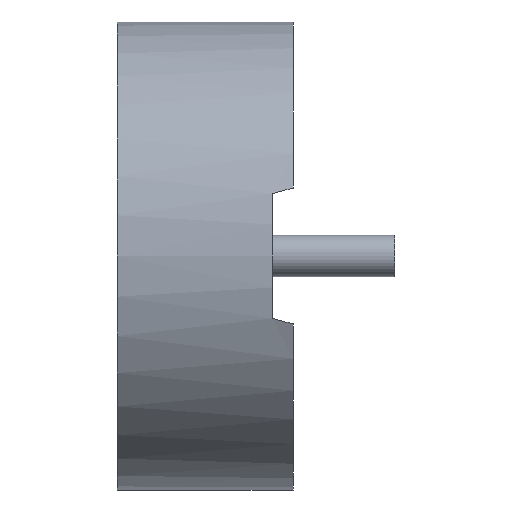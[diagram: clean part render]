
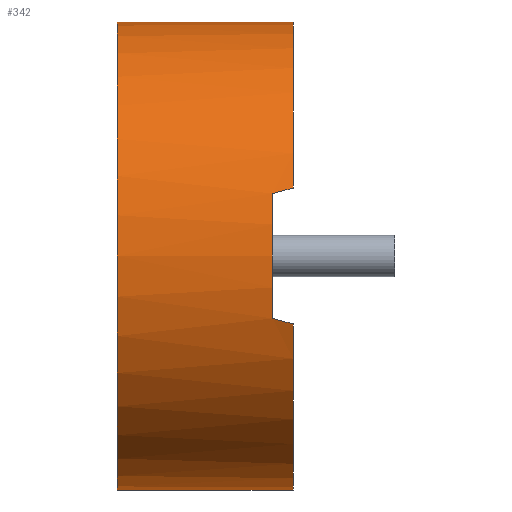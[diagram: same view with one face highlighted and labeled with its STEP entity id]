
A CAD part, left-side view. The second image highlights one B-rep face of the part: STEP entity #342.
In plain terms, the highlighted cylindrical face has radius 14.287 mm (diameter 28.575 mm), a partial arc.
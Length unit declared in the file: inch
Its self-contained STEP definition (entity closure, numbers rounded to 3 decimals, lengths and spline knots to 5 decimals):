
#6 = CARTESIAN_POINT ( 'NONE',  ( -0.53824, 0., 0.1634 ) ) ;
#36 = EDGE_CURVE ( 'NONE', #85, #126, #417, .T. ) ;
#43 = LINE ( 'NONE', #775, #900 ) ;
#44 = FACE_OUTER_BOUND ( 'NONE', #283, .T. ) ;
#84 =( BOUNDED_CURVE ( )  B_SPLINE_CURVE ( 3, ( #1111, #701, #686, #6 ),
 .UNSPECIFIED., .F., .T. ) 
 B_SPLINE_CURVE_WITH_KNOTS ( ( 4, 4 ),
 ( 4.98232, 5.00713 ),
 .UNSPECIFIED. ) 
 CURVE ( )  GEOMETRIC_REPRESENTATION_ITEM ( )  RATIONAL_B_SPLINE_CURVE ( ( 1., 1., 1., 1. ) ) 
 REPRESENTATION_ITEM ( '' )  );
#85 = VERTEX_POINT ( 'NONE', #703 ) ;
#86 = ORIENTED_EDGE ( 'NONE', *, *, #266, .T. ) ;
#124 = CARTESIAN_POINT ( 'NONE',  ( -0.54213, 0.05, -0.15 ) ) ;
#126 = VERTEX_POINT ( 'NONE', #878 ) ;
#132 = ORIENTED_EDGE ( 'NONE', *, *, #778, .T. ) ;
#143 = ORIENTED_EDGE ( 'NONE', *, *, #371, .F. ) ;
#154 = VERTEX_POINT ( 'NONE', #1243 ) ;
#159 = AXIS2_PLACEMENT_3D ( 'NONE', #237, #236, #235 ) ;
#161 = CARTESIAN_POINT ( 'NONE',  ( -0.54213, 0.05, -0.15 ) ) ;
#181 = CIRCLE ( 'NONE', #789, 0.5625 ) ;
#226 = CYLINDRICAL_SURFACE ( 'NONE', #487, 0.5625 ) ;
#235 = DIRECTION ( 'NONE',  ( 0., 0., 1. ) ) ;
#236 = DIRECTION ( 'NONE',  ( 0., 1., 0. ) ) ;
#237 = CARTESIAN_POINT ( 'NONE',  ( 0., 0., 0. ) ) ;
#243 = CIRCLE ( 'NONE', #159, 0.5625 ) ;
#251 = CARTESIAN_POINT ( 'NONE',  ( -0.54213, 0.05, 0.15 ) ) ;
#266 = EDGE_CURVE ( 'NONE', #85, #279, #1164, .T. ) ;
#271 = CARTESIAN_POINT ( 'NONE',  ( 0., 0., 0.5625 ) ) ;
#279 = VERTEX_POINT ( 'NONE', #438 ) ;
#283 = EDGE_LOOP ( 'NONE', ( #143, #306, #86, #991, #976, #132, #902, #980 ) ) ;
#290 = CARTESIAN_POINT ( 'NONE',  ( -0.54089, 0.03327, -0.15448 ) ) ;
#306 = ORIENTED_EDGE ( 'NONE', *, *, #36, .F. ) ;
#329 = CARTESIAN_POINT ( 'NONE',  ( 0., 0.05, 0. ) ) ;
#342 = ADVANCED_FACE ( 'NONE', ( #44 ), #226, .T. ) ;
#371 = EDGE_CURVE ( 'NONE', #126, #1102, #43, .T. ) ;
#407 = DIRECTION ( 'NONE',  ( 0., 1., 0. ) ) ;
#417 = CIRCLE ( 'NONE', #1151, 0.5625 ) ;
#438 = CARTESIAN_POINT ( 'NONE',  ( 0., 0., -0.5625 ) ) ;
#485 = DIRECTION ( 'NONE',  ( 0., -1., 0. ) ) ;
#487 = AXIS2_PLACEMENT_3D ( 'NONE', #1035, #680, #767 ) ;
#491 = CARTESIAN_POINT ( 'NONE',  ( 0., 0.423, -0.5625 ) ) ;
#504 = VERTEX_POINT ( 'NONE', #722 ) ;
#517 = CARTESIAN_POINT ( 'NONE',  ( 0., 0.423, 0. ) ) ;
#525 = DIRECTION ( 'NONE',  ( 0., 1., 0. ) ) ;
#538 = CARTESIAN_POINT ( 'NONE',  ( 0., 0., 0. ) ) ;
#670 = DIRECTION ( 'NONE',  ( 0., -1., 0. ) ) ;
#680 = DIRECTION ( 'NONE',  ( 0., -1., 0. ) ) ;
#686 = CARTESIAN_POINT ( 'NONE',  ( -0.5396, 0.01661, 0.15895 ) ) ;
#701 = CARTESIAN_POINT ( 'NONE',  ( -0.54089, 0.03327, 0.15448 ) ) ;
#703 = CARTESIAN_POINT ( 'NONE',  ( 0., 0.423, -0.5625 ) ) ;
#722 = CARTESIAN_POINT ( 'NONE',  ( -0.53824, 0., -0.1634 ) ) ;
#740 = VECTOR ( 'NONE', #485, 39.37008 ) ;
#767 = DIRECTION ( 'NONE',  ( 0., 0., -1. ) ) ;
#775 = CARTESIAN_POINT ( 'NONE',  ( 0., 0.423, 0.5625 ) ) ;
#778 = EDGE_CURVE ( 'NONE', #946, #1249, #181, .T. ) ;
#789 = AXIS2_PLACEMENT_3D ( 'NONE', #329, #407, #939 ) ;
#834 = EDGE_CURVE ( 'NONE', #1249, #154, #84, .T. ) ;
#851 = DIRECTION ( 'NONE',  ( 0., 0., 1. ) ) ;
#878 = CARTESIAN_POINT ( 'NONE',  ( 0., 0.423, 0.5625 ) ) ;
#900 = VECTOR ( 'NONE', #670, 39.37008 ) ;
#902 = ORIENTED_EDGE ( 'NONE', *, *, #834, .T. ) ;
#939 = DIRECTION ( 'NONE',  ( 0., 0., 1. ) ) ;
#946 = VERTEX_POINT ( 'NONE', #161 ) ;
#955 = EDGE_CURVE ( 'NONE', #279, #504, #1159, .T. ) ;
#976 = ORIENTED_EDGE ( 'NONE', *, *, #994, .T. ) ;
#980 = ORIENTED_EDGE ( 'NONE', *, *, #1192, .T. ) ;
#991 = ORIENTED_EDGE ( 'NONE', *, *, #955, .T. ) ;
#994 = EDGE_CURVE ( 'NONE', #504, #946, #1282, .T. ) ;
#1024 = AXIS2_PLACEMENT_3D ( 'NONE', #538, #1054, #1057 ) ;
#1035 = CARTESIAN_POINT ( 'NONE',  ( 0., 0.423, 0. ) ) ;
#1054 = DIRECTION ( 'NONE',  ( 0., 1., 0. ) ) ;
#1057 = DIRECTION ( 'NONE',  ( 0., 0., 1. ) ) ;
#1058 = CARTESIAN_POINT ( 'NONE',  ( -0.53824, 0., -0.1634 ) ) ;
#1064 = CARTESIAN_POINT ( 'NONE',  ( -0.5396, 0.01661, -0.15895 ) ) ;
#1102 = VERTEX_POINT ( 'NONE', #271 ) ;
#1111 = CARTESIAN_POINT ( 'NONE',  ( -0.54213, 0.05, 0.15 ) ) ;
#1151 = AXIS2_PLACEMENT_3D ( 'NONE', #517, #525, #851 ) ;
#1159 = CIRCLE ( 'NONE', #1024, 0.5625 ) ;
#1164 = LINE ( 'NONE', #491, #740 ) ;
#1192 = EDGE_CURVE ( 'NONE', #154, #1102, #243, .T. ) ;
#1243 = CARTESIAN_POINT ( 'NONE',  ( -0.53824, 0., 0.1634 ) ) ;
#1249 = VERTEX_POINT ( 'NONE', #251 ) ;
#1282 =( BOUNDED_CURVE ( )  B_SPLINE_CURVE ( 3, ( #1058, #1064, #290, #124 ),
 .UNSPECIFIED., .F., .T. ) 
 B_SPLINE_CURVE_WITH_KNOTS ( ( 4, 4 ),
 ( 1.27606, 1.30086 ),
 .UNSPECIFIED. ) 
 CURVE ( )  GEOMETRIC_REPRESENTATION_ITEM ( )  RATIONAL_B_SPLINE_CURVE ( ( 1., 1., 1., 1. ) ) 
 REPRESENTATION_ITEM ( '' )  );
